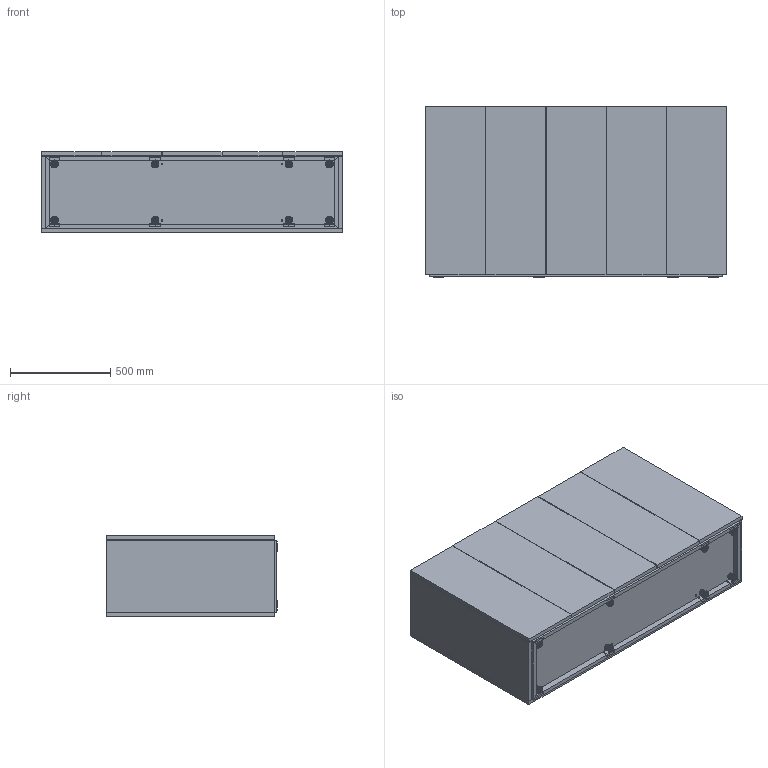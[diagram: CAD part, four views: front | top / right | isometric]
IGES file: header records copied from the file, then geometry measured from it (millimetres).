
Start section: SolidWorks IGES file using analytic representation for surfaces
Global section: file name: C:\DOCUMENTI_UT\030_PRODUZIONE MAKRO\SW\MOBILI_LAVABO\MODULO30\ASSIEMI\TOP TECH LATERALE\MODULO30_150\MODULO30_150_5ANTE_MOBILE_LAVABODX_ISOLA.IGS; native system: SolidWorks 2012; preprocessor: SolidWorks 2012; author: TECNICO; date: 160519.091112; units: millimetre
Bounding box: 1501 x 851.15 x 400 mm (x, y, z)
Surface area: 8414084.9 mm2 (no closed solid volume)
Topology: 0 solids, 0 shells, 636 faces, 10852 edges, 10828 vertices
Faces by surface type: bspline 345, revolution 291
